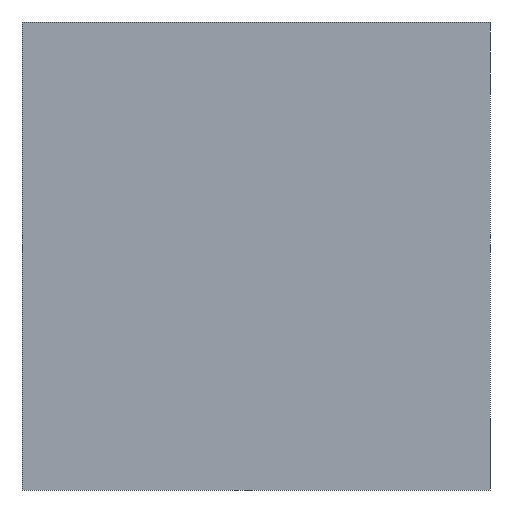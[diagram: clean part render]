
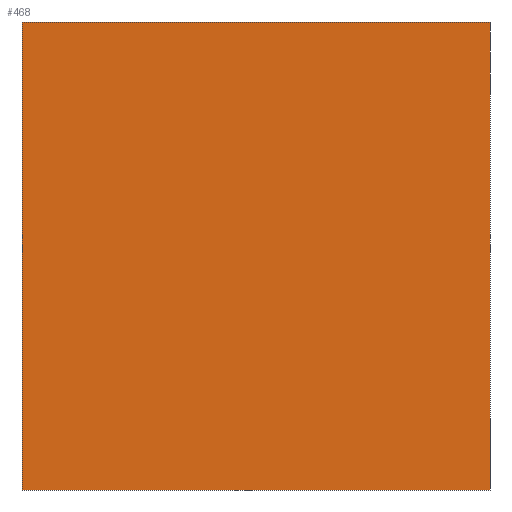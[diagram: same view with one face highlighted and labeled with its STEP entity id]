
A CAD part, front view. The second image highlights one B-rep face of the part: STEP entity #468.
In plain terms, the highlighted planar face has unit normal (0, -1, 0).
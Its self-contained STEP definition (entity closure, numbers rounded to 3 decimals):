
#22 = VERTEX_POINT('',#23);
#23 = CARTESIAN_POINT('',(-18.,-15.75,-11.));
#31 = EDGE_CURVE('',#32,#22,#34,.T.);
#32 = VERTEX_POINT('',#33);
#33 = CARTESIAN_POINT('',(-18.,-15.75,-29.));
#34 = LINE('',#35,#36);
#35 = CARTESIAN_POINT('',(-18.,-15.75,-29.));
#36 = VECTOR('',#37,1.);
#37 = DIRECTION('',(0.,0.,1.));
#148 = EDGE_CURVE('',#22,#149,#151,.T.);
#149 = VERTEX_POINT('',#150);
#150 = CARTESIAN_POINT('',(0.,-15.75,-11.));
#151 = LINE('',#152,#153);
#152 = CARTESIAN_POINT('',(-18.,-15.75,-11.));
#153 = VECTOR('',#154,1.);
#154 = DIRECTION('',(1.,0.,-0.));
#449 = EDGE_CURVE('',#32,#450,#452,.T.);
#450 = VERTEX_POINT('',#451);
#451 = CARTESIAN_POINT('',(0.,-15.75,-29.));
#452 = LINE('',#453,#454);
#453 = CARTESIAN_POINT('',(-18.,-15.75,-29.));
#454 = VECTOR('',#455,1.);
#455 = DIRECTION('',(1.,0.,-0.));
#468 = ADVANCED_FACE('',(#469),#480,.F.);
#469 = FACE_BOUND('',#470,.F.);
#470 = EDGE_LOOP('',(#471,#472,#473,#474));
#471 = ORIENTED_EDGE('',*,*,#449,.F.);
#472 = ORIENTED_EDGE('',*,*,#31,.T.);
#473 = ORIENTED_EDGE('',*,*,#148,.T.);
#474 = ORIENTED_EDGE('',*,*,#475,.F.);
#475 = EDGE_CURVE('',#450,#149,#476,.T.);
#476 = LINE('',#477,#478);
#477 = CARTESIAN_POINT('',(0.,-15.75,-29.));
#478 = VECTOR('',#479,1.);
#479 = DIRECTION('',(0.,0.,1.));
#480 = PLANE('',#481);
#481 = AXIS2_PLACEMENT_3D('',#482,#483,#484);
#482 = CARTESIAN_POINT('',(-18.,-15.75,-29.));
#483 = DIRECTION('',(-0.,1.,0.));
#484 = DIRECTION('',(0.,0.,1.));
